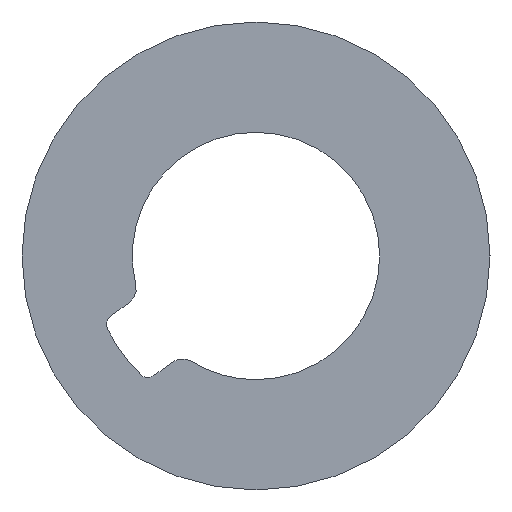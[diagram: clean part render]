
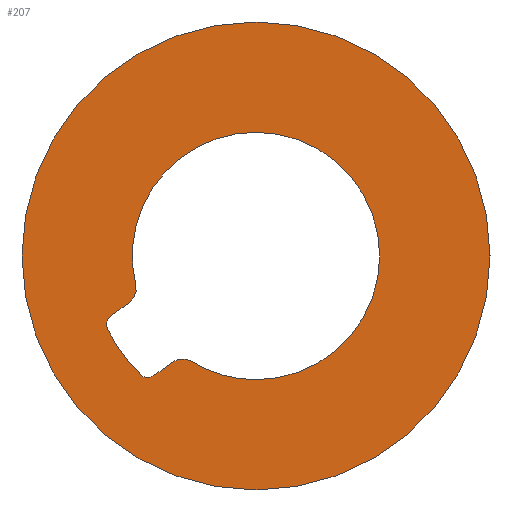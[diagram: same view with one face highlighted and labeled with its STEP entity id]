
A CAD part, left-side view. The second image highlights one B-rep face of the part: STEP entity #207.
In plain terms, the highlighted planar face has unit normal (-1, 0, 0).
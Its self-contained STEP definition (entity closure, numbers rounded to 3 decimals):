
#5 = ORIENTED_EDGE ( 'NONE', *, *, #262, .T. ) ;
#7 = ORIENTED_EDGE ( 'NONE', *, *, #292, .T. ) ;
#9 = ORIENTED_EDGE ( 'NONE', *, *, #293, .T. ) ;
#12 = ORIENTED_EDGE ( 'NONE', *, *, #294, .T. ) ;
#37 = CIRCLE ( 'NONE', #222, 0.3 ) ;
#39 = CIRCLE ( 'NONE', #223, 4.95 ) ;
#40 = CIRCLE ( 'NONE', #227, 0.3 ) ;
#41 = VECTOR ( 'NONE', #383, 1000. ) ;
#42 = CIRCLE ( 'NONE', #231, 0.5 ) ;
#43 = LINE ( 'NONE', #384, #41 ) ;
#46 = VECTOR ( 'NONE', #389, 1000. ) ;
#47 = CIRCLE ( 'NONE', #224, 7. ) ;
#48 = LINE ( 'NONE', #392, #46 ) ;
#62 = CIRCLE ( 'NONE', #233, 3.7 ) ;
#71 = CIRCLE ( 'NONE', #235, 3.7 ) ;
#76 = CIRCLE ( 'NONE', #237, 3.7 ) ;
#85 = CIRCLE ( 'NONE', #239, 7. ) ;
#97 = CIRCLE ( 'NONE', #242, 0.3 ) ;
#100 = CIRCLE ( 'NONE', #243, 0.5 ) ;
#105 = ORIENTED_EDGE ( 'NONE', *, *, #289, .T. ) ;
#106 = ORIENTED_EDGE ( 'NONE', *, *, #268, .F. ) ;
#107 = ORIENTED_EDGE ( 'NONE', *, *, #288, .F. ) ;
#108 = ORIENTED_EDGE ( 'NONE', *, *, #272, .T. ) ;
#109 = ORIENTED_EDGE ( 'NONE', *, *, #275, .T. ) ;
#110 = ORIENTED_EDGE ( 'NONE', *, *, #261, .T. ) ;
#111 = ORIENTED_EDGE ( 'NONE', *, *, #279, .T. ) ;
#112 = ORIENTED_EDGE ( 'NONE', *, *, #291, .T. ) ;
#113 = ORIENTED_EDGE ( 'NONE', *, *, #290, .T. ) ;
#130 = FACE_BOUND ( 'NONE', #156, .T. ) ;
#131 = FACE_OUTER_BOUND ( 'NONE', #159, .T. ) ;
#156 = EDGE_LOOP ( 'NONE', ( #105, #110, #109, #108, #111, #113, #112, #7, #5, #9, #12 ) ) ;
#159 = EDGE_LOOP ( 'NONE', ( #107, #106 ) ) ;
#207 = ADVANCED_FACE ( 'NONE', ( #131, #130 ), #457, .F. ) ;
#222 = AXIS2_PLACEMENT_3D ( 'NONE', #375, #374, #373 ) ;
#223 = AXIS2_PLACEMENT_3D ( 'NONE', #378, #377, #376 ) ;
#224 = AXIS2_PLACEMENT_3D ( 'NONE', #397, #396, #393 ) ;
#227 = AXIS2_PLACEMENT_3D ( 'NONE', #381, #380, #379 ) ;
#231 = AXIS2_PLACEMENT_3D ( 'NONE', #388, #386, #385 ) ;
#233 = AXIS2_PLACEMENT_3D ( 'NONE', #442, #441, #440 ) ;
#235 = AXIS2_PLACEMENT_3D ( 'NONE', #302, #301, #300 ) ;
#237 = AXIS2_PLACEMENT_3D ( 'NONE', #328, #327, #324 ) ;
#239 = AXIS2_PLACEMENT_3D ( 'NONE', #387, #382, #368 ) ;
#242 = AXIS2_PLACEMENT_3D ( 'NONE', #431, #430, #429 ) ;
#243 = AXIS2_PLACEMENT_3D ( 'NONE', #439, #437, #434 ) ;
#252 = AXIS2_PLACEMENT_3D ( 'NONE', #492, #483, #478 ) ;
#261 = EDGE_CURVE ( 'NONE', #524, #503, #100, .T. ) ;
#262 = EDGE_CURVE ( 'NONE', #516, #525, #97, .T. ) ;
#268 = EDGE_CURVE ( 'NONE', #519, #502, #85, .T. ) ;
#272 = EDGE_CURVE ( 'NONE', #522, #514, #76, .T. ) ;
#275 = EDGE_CURVE ( 'NONE', #503, #522, #71, .T. ) ;
#279 = EDGE_CURVE ( 'NONE', #514, #512, #62, .T. ) ;
#288 = EDGE_CURVE ( 'NONE', #502, #519, #47, .T. ) ;
#289 = EDGE_CURVE ( 'NONE', #515, #524, #48, .T. ) ;
#290 = EDGE_CURVE ( 'NONE', #512, #506, #42, .T. ) ;
#291 = EDGE_CURVE ( 'NONE', #506, #505, #43, .T. ) ;
#292 = EDGE_CURVE ( 'NONE', #505, #516, #40, .T. ) ;
#293 = EDGE_CURVE ( 'NONE', #525, #523, #39, .T. ) ;
#294 = EDGE_CURVE ( 'NONE', #523, #515, #37, .T. ) ;
#300 = DIRECTION ( 'NONE',  ( 0., 0., -1. ) ) ;
#301 = DIRECTION ( 'NONE',  ( 1., 0., 0. ) ) ;
#302 = CARTESIAN_POINT ( 'NONE',  ( -310.5, 0., 0. ) ) ;
#324 = DIRECTION ( 'NONE',  ( 0., 0., -1. ) ) ;
#327 = DIRECTION ( 'NONE',  ( 1., 0., 0. ) ) ;
#328 = CARTESIAN_POINT ( 'NONE',  ( -310.5, 0., 0. ) ) ;
#329 = CARTESIAN_POINT ( 'NONE',  ( -310.5, 3.444, -3.555 ) ) ;
#330 = CARTESIAN_POINT ( 'NONE',  ( -310.5, 3.788, -1.393 ) ) ;
#331 = CARTESIAN_POINT ( 'NONE',  ( -310.5, 4.445, -2.177 ) ) ;
#332 = CARTESIAN_POINT ( 'NONE',  ( -310.5, 0., 3.7 ) ) ;
#336 = CARTESIAN_POINT ( 'NONE',  ( -310.5, 0., -7. ) ) ;
#340 = CARTESIAN_POINT ( 'NONE',  ( -310.5, 3.236, -3.64 ) ) ;
#341 = CARTESIAN_POINT ( 'NONE',  ( -310.5, 4.352, -1.803 ) ) ;
#342 = CARTESIAN_POINT ( 'NONE',  ( -310.5, 0., -3.7 ) ) ;
#345 = CARTESIAN_POINT ( 'NONE',  ( -310.5, 1.939, -3.151 ) ) ;
#353 = CARTESIAN_POINT ( 'NONE',  ( -310.5, 2.495, -3.172 ) ) ;
#354 = CARTESIAN_POINT ( 'NONE',  ( -310.5, 3.059, -3.582 ) ) ;
#356 = CARTESIAN_POINT ( 'NONE',  ( -310.5, 3.596, -0.87 ) ) ;
#357 = CARTESIAN_POINT ( 'NONE',  ( -310.5, 0., 7. ) ) ;
#368 = DIRECTION ( 'NONE',  ( 0., 0., -1. ) ) ;
#373 = DIRECTION ( 'NONE',  ( 0., 0., -1. ) ) ;
#374 = DIRECTION ( 'NONE',  ( 1., 0., 0. ) ) ;
#375 = CARTESIAN_POINT ( 'NONE',  ( -310.5, 4.176, -2.045 ) ) ;
#376 = DIRECTION ( 'NONE',  ( 0., 0., 1. ) ) ;
#377 = DIRECTION ( 'NONE',  ( 1., 0., 0. ) ) ;
#378 = CARTESIAN_POINT ( 'NONE',  ( -310.5, 0., 0. ) ) ;
#379 = DIRECTION ( 'NONE',  ( 0., 0., 1. ) ) ;
#380 = DIRECTION ( 'NONE',  ( 1., 0., 0. ) ) ;
#381 = CARTESIAN_POINT ( 'NONE',  ( -310.5, 3.236, -3.34 ) ) ;
#382 = DIRECTION ( 'NONE',  ( 1., 0., 0. ) ) ;
#383 = DIRECTION ( 'NONE',  ( 0., 0.809, -0.588 ) ) ;
#384 = CARTESIAN_POINT ( 'NONE',  ( -310.5, 3.059, -3.582 ) ) ;
#385 = DIRECTION ( 'NONE',  ( 0., 0., -1. ) ) ;
#386 = DIRECTION ( 'NONE',  ( -1., 0., 0. ) ) ;
#387 = CARTESIAN_POINT ( 'NONE',  ( -310.5, 0., 0. ) ) ;
#388 = CARTESIAN_POINT ( 'NONE',  ( -310.5, 2.201, -3.577 ) ) ;
#389 = DIRECTION ( 'NONE',  ( 0., -0.809, 0.588 ) ) ;
#392 = CARTESIAN_POINT ( 'NONE',  ( -310.5, 3.788, -1.393 ) ) ;
#393 = DIRECTION ( 'NONE',  ( 0., 0., -1. ) ) ;
#396 = DIRECTION ( 'NONE',  ( 1., 0., 0. ) ) ;
#397 = CARTESIAN_POINT ( 'NONE',  ( -310.5, 0., 0. ) ) ;
#429 = DIRECTION ( 'NONE',  ( 0., 0., 1. ) ) ;
#430 = DIRECTION ( 'NONE',  ( 1., 0., 0. ) ) ;
#431 = CARTESIAN_POINT ( 'NONE',  ( -310.5, 3.236, -3.34 ) ) ;
#434 = DIRECTION ( 'NONE',  ( 0., 0., 1. ) ) ;
#437 = DIRECTION ( 'NONE',  ( -1., 0., 0. ) ) ;
#439 = CARTESIAN_POINT ( 'NONE',  ( -310.5, 4.082, -0.988 ) ) ;
#440 = DIRECTION ( 'NONE',  ( 0., 0., -1. ) ) ;
#441 = DIRECTION ( 'NONE',  ( 1., 0., 0. ) ) ;
#442 = CARTESIAN_POINT ( 'NONE',  ( -310.5, 0., 0. ) ) ;
#457 = PLANE ( 'NONE',  #252 ) ;
#478 = DIRECTION ( 'NONE',  ( 0., 0., -1. ) ) ;
#483 = DIRECTION ( 'NONE',  ( 1., 0., 0. ) ) ;
#492 = CARTESIAN_POINT ( 'NONE',  ( -310.5, 0., 0. ) ) ;
#502 = VERTEX_POINT ( 'NONE', #357 ) ;
#503 = VERTEX_POINT ( 'NONE', #356 ) ;
#505 = VERTEX_POINT ( 'NONE', #354 ) ;
#506 = VERTEX_POINT ( 'NONE', #353 ) ;
#512 = VERTEX_POINT ( 'NONE', #345 ) ;
#514 = VERTEX_POINT ( 'NONE', #342 ) ;
#515 = VERTEX_POINT ( 'NONE', #341 ) ;
#516 = VERTEX_POINT ( 'NONE', #340 ) ;
#519 = VERTEX_POINT ( 'NONE', #336 ) ;
#522 = VERTEX_POINT ( 'NONE', #332 ) ;
#523 = VERTEX_POINT ( 'NONE', #331 ) ;
#524 = VERTEX_POINT ( 'NONE', #330 ) ;
#525 = VERTEX_POINT ( 'NONE', #329 ) ;
